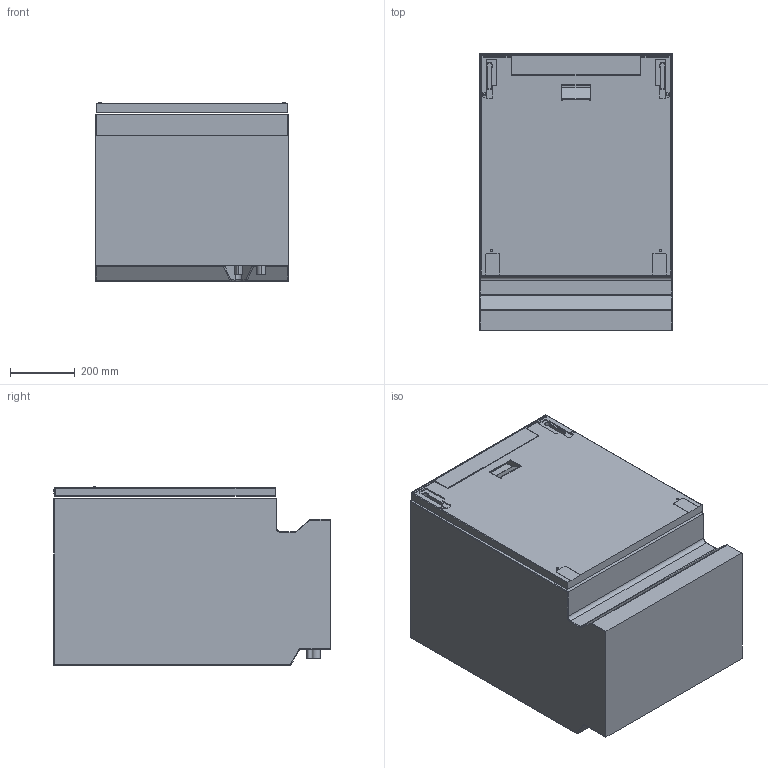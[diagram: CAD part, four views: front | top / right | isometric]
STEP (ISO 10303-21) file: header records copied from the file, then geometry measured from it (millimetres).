
FILE_DESCRIPTION (( 'STEP AP203' ), '1' );
FILE_NAME ('ST2020-H860.STEP', '2021-05-12T15:22:40', ( '' ), ( '' ), 'SwSTEP 2.0', 'SolidWorks 2018', '' );
FILE_SCHEMA (( 'CONFIG_CONTROL_DESIGN' ));
Length unit declared in the file: millimetre
Products named in the file (1): ST2020-H860
Bounding box: 598 x 858 x 553 mm (x, y, z)
Volume: 264866900.6 mm3; surface area: 3408057.8 mm2
Topology: 2 solids, 2 shells, 540 faces, 1331 edges, 822 vertices
Faces by surface type: plane 250, cylinder 201, torus 39, cone 38, bspline 8, sphere 4
Entity records: 16215 total; most frequent: CARTESIAN_POINT 3130, DIRECTION 2846, ORIENTED_EDGE 2650, EDGE_CURVE 1325, AXIS2_PLACEMENT_3D 1016, VERTEX_POINT 822, VECTOR 814, LINE 814
